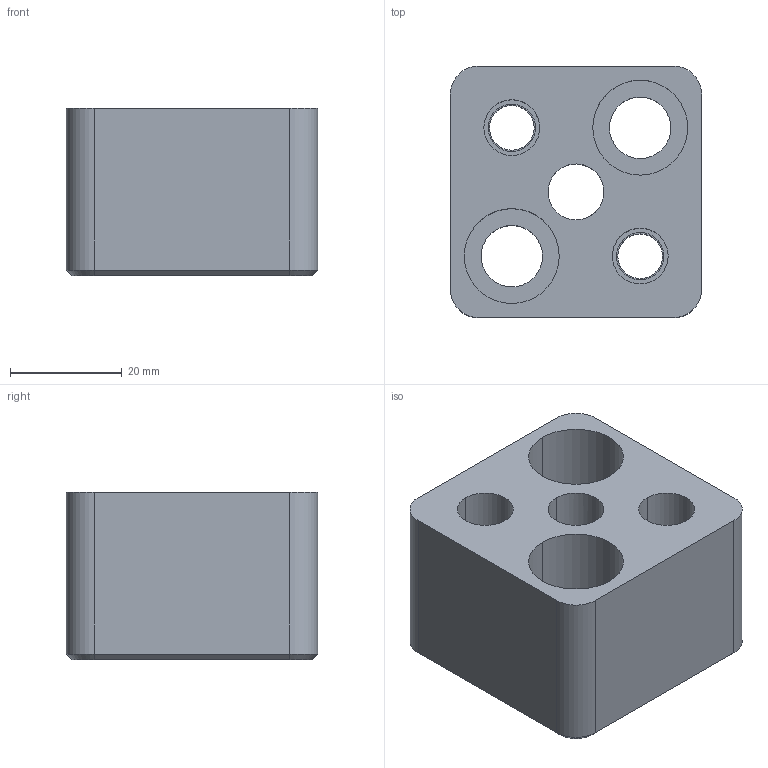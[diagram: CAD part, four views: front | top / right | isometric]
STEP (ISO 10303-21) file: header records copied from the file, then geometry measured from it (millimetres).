
FILE_DESCRIPTION(/* description */ (''),/* implementation_level */ '2;1');
FILE_NAME(/* name */ '3d_hsr-fn10_04196_r00.stp',/* time_stamp */ '2011-01-10T14:14:34+09:00',/* author */ ('MISUMI'),/* organization */ (''),/* preprocessor_version */ 'ST-DEVELOPER v11',/* originating_system */ 'UGS - NX 5.0',/* authorisation */ '');
FILE_SCHEMA (('CONFIG_CONTROL_DESIGN'));
Length unit declared in the file: millimetre
Products named in the file (1): 3d_hsr-fn10_04196_r00
Bounding box: 45 x 45 x 30 mm (x, y, z)
Volume: 44580.6 mm3; surface area: 13535.6 mm2
Topology: 1 solids, 1 shells, 55 faces, 132 edges, 85 vertices
Faces by surface type: cylinder 29, plane 20, cone 6
Entity records: 1732 total; most frequent: DIRECTION 304, CARTESIAN_POINT 290, ORIENTED_EDGE 264, EDGE_CURVE 132, AXIS2_PLACEMENT_3D 121, VERTEX_POINT 85, EDGE_LOOP 71, CIRCLE 65
